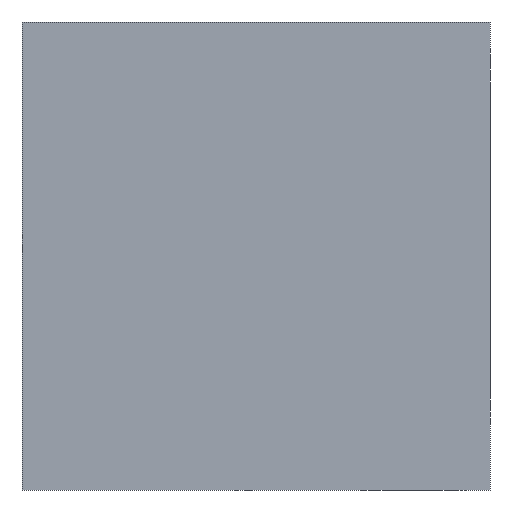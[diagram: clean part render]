
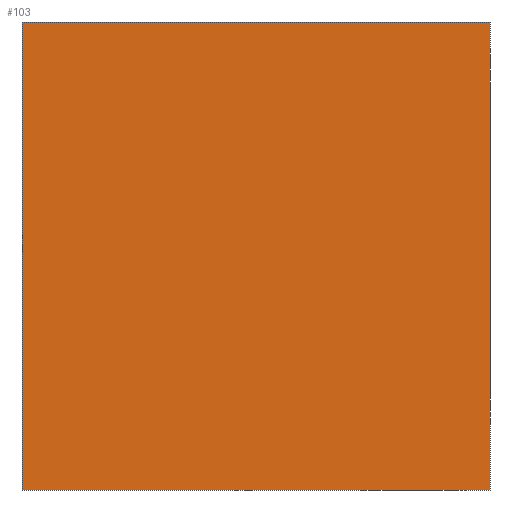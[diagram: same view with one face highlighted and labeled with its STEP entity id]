
A CAD part, front view. The second image highlights one B-rep face of the part: STEP entity #103.
In plain terms, the highlighted planar face has unit normal (0, -1, 0).
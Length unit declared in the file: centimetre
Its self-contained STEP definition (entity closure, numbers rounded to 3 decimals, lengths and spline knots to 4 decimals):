
#3 = EDGE_CURVE ( 'NONE', #948, #270, #152, .T. ) ;
#20 = CARTESIAN_POINT ( 'NONE',  ( 0., 0., 1000. ) ) ;
#63 = CARTESIAN_POINT ( 'NONE',  ( 1000., 0., 1000. ) ) ;
#90 = DIRECTION ( 'NONE',  ( 0., 1., 0. ) ) ;
#103 = ADVANCED_FACE ( 'NONE', ( #249 ), #585, .F. ) ;
#137 = VERTEX_POINT ( 'NONE', #507 ) ;
#152 = LINE ( 'NONE', #63, #882 ) ;
#239 = DIRECTION ( 'NONE',  ( 0., 0., -1. ) ) ;
#249 = FACE_OUTER_BOUND ( 'NONE', #782, .T. ) ;
#269 = VECTOR ( 'NONE', #656, 100. ) ;
#270 = VERTEX_POINT ( 'NONE', #818 ) ;
#309 = DIRECTION ( 'NONE',  ( 0., 0., -1. ) ) ;
#323 = CARTESIAN_POINT ( 'NONE',  ( 0., 0., 1000. ) ) ;
#381 = ORIENTED_EDGE ( 'NONE', *, *, #438, .F. ) ;
#397 = EDGE_CURVE ( 'NONE', #137, #604, #835, .T. ) ;
#438 = EDGE_CURVE ( 'NONE', #137, #948, #740, .T. ) ;
#507 = CARTESIAN_POINT ( 'NONE',  ( 0., 0., 1000. ) ) ;
#569 = CARTESIAN_POINT ( 'NONE',  ( 1000., 0., 1000. ) ) ;
#585 = PLANE ( 'NONE',  #1074 ) ;
#604 = VERTEX_POINT ( 'NONE', #763 ) ;
#656 = DIRECTION ( 'NONE',  ( 1., 0., 0. ) ) ;
#673 = VECTOR ( 'NONE', #1049, 100. ) ;
#705 = ORIENTED_EDGE ( 'NONE', *, *, #975, .T. ) ;
#722 = LINE ( 'NONE', #811, #673 ) ;
#740 = LINE ( 'NONE', #323, #269 ) ;
#747 = DIRECTION ( 'NONE',  ( 0., 0., 1. ) ) ;
#763 = CARTESIAN_POINT ( 'NONE',  ( 0., 0., 0. ) ) ;
#782 = EDGE_LOOP ( 'NONE', ( #705, #946, #381, #852 ) ) ;
#811 = CARTESIAN_POINT ( 'NONE',  ( 0., 0., 0. ) ) ;
#818 = CARTESIAN_POINT ( 'NONE',  ( 1000., 0., 0. ) ) ;
#835 = LINE ( 'NONE', #912, #951 ) ;
#852 = ORIENTED_EDGE ( 'NONE', *, *, #397, .T. ) ;
#882 = VECTOR ( 'NONE', #309, 100. ) ;
#912 = CARTESIAN_POINT ( 'NONE',  ( 0., 0., 1000. ) ) ;
#946 = ORIENTED_EDGE ( 'NONE', *, *, #3, .F. ) ;
#948 = VERTEX_POINT ( 'NONE', #569 ) ;
#951 = VECTOR ( 'NONE', #239, 100. ) ;
#975 = EDGE_CURVE ( 'NONE', #604, #270, #722, .T. ) ;
#1049 = DIRECTION ( 'NONE',  ( 1., 0., 0. ) ) ;
#1074 = AXIS2_PLACEMENT_3D ( 'NONE', #20, #90, #747 ) ;
